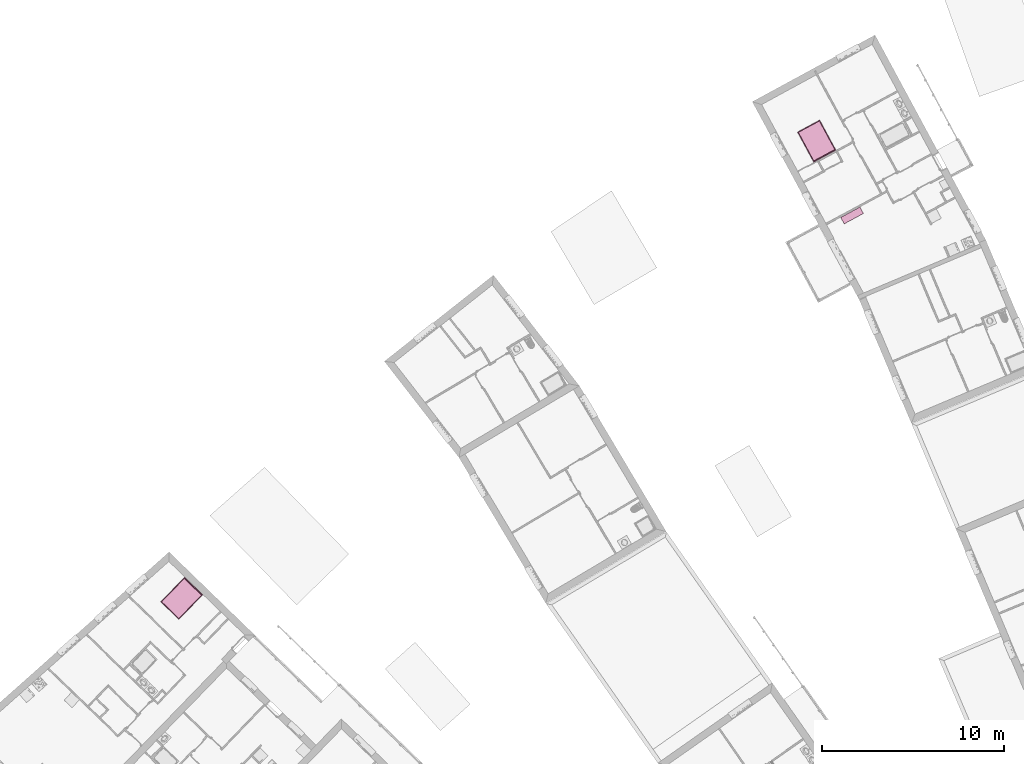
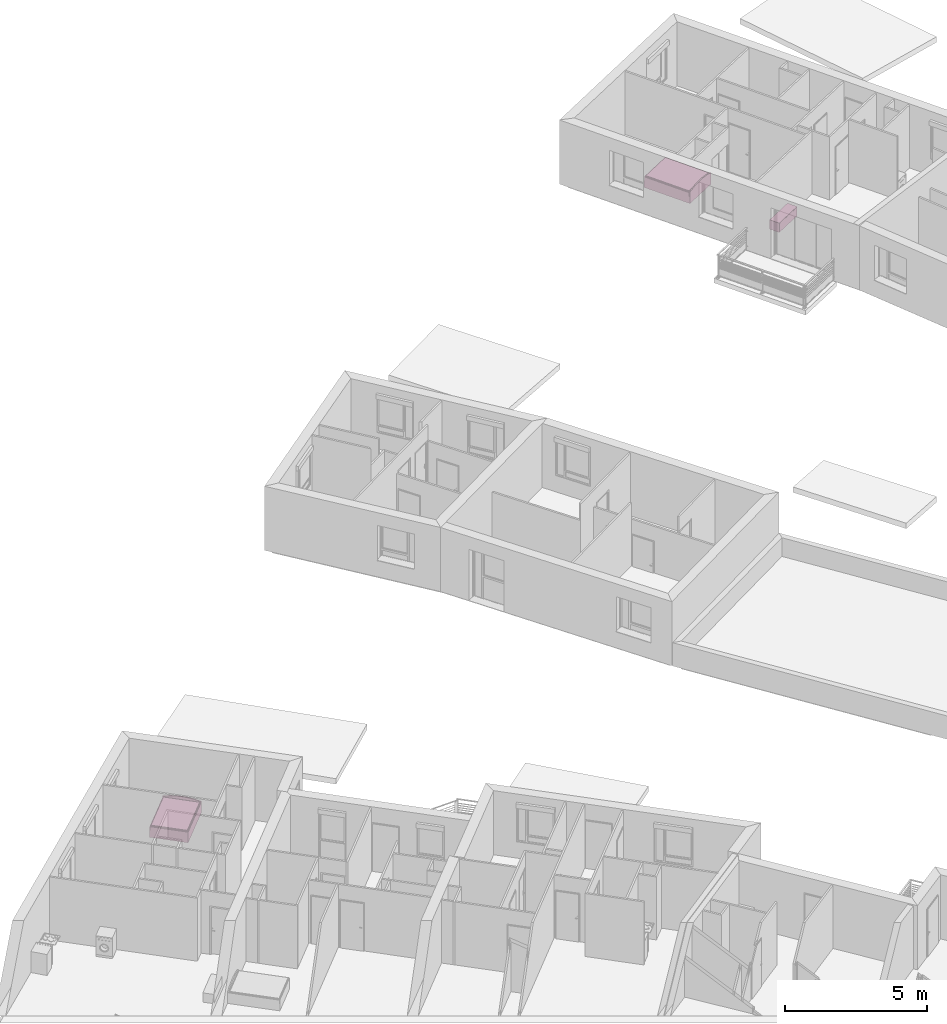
# One storey, part 104 of 121: 3 furnishings.
"""IFC2X3 building model written with IfcOpenShell, lengths in metres."""

from ifc_helpers import new_model, entity, si_unit, converted_unit, derived_unit, money_unit, direction, frame, origin_with_axes, place, context, subcontext, project, spatial, open_shell, faceted_brep, surface_model, source, transform, mapped, type_object, element, save


model = new_model("IFC2X3")

# Units and contexts
model_context = context("Model", 3, precision=1e-05, world=origin_with_axes(), true_north=direction((0.0, 1.0)))
body_context = subcontext(model_context, "Body", "Model", "MODEL_VIEW")
ifc_project = project(units=[si_unit("LENGTHUNIT", "METRE"), si_unit("AREAUNIT", "SQUARE_METRE"), si_unit("VOLUMEUNIT", "CUBIC_METRE"), converted_unit("PLANEANGLEUNIT", "DEGREE", entity("IfcPlaneAngleMeasure", 0.0174532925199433), si_unit("PLANEANGLEUNIT", "RADIAN"), dimensions=[0, 0, 0, 0, 0, 0, 0]), money_unit("CHF"), converted_unit("TIMEUNIT", "Year", entity("IfcTimeMeasure", 31557600.0), si_unit("TIMEUNIT", "SECOND"), dimensions=[0, 0, 1, 0, 0, 0, 0]), si_unit("MASSUNIT", "GRAM", prefix="KILO"), si_unit("THERMODYNAMICTEMPERATUREUNIT", "DEGREE_CELSIUS"), si_unit("LUMINOUSINTENSITYUNIT", "LUMEN"), si_unit("ENERGYUNIT", "JOULE", prefix="MEGA"), derived_unit("THERMALCONDUCTANCEUNIT", [(si_unit("POWERUNIT", "WATT"), 1), (si_unit("LENGTHUNIT", "METRE"), -1), (si_unit("THERMODYNAMICTEMPERATUREUNIT", "KELVIN"), -1)]), derived_unit("SPECIFICHEATCAPACITYUNIT", [(si_unit("ENERGYUNIT", "JOULE"), 1), (si_unit("MASSUNIT", "GRAM", prefix="KILO"), -1), (si_unit("THERMODYNAMICTEMPERATUREUNIT", "KELVIN"), -1)]), derived_unit("MASSDENSITYUNIT", [(si_unit("MASSUNIT", "GRAM", prefix="KILO"), 1), (si_unit("VOLUMEUNIT", "CUBIC_METRE"), -1)])], contexts=[model_context])

# Site, building, storey
site_placement = place(None, origin_with_axes())
site = spatial("IfcSite", under=ifc_project, at=site_placement, Name="Site", CompositionType="ELEMENT")
building_placement = place(site_placement, origin_with_axes())
building = spatial("IfcBuilding", under=site, at=building_placement, Name="Bâtiment", CompositionType="ELEMENT")
storey_placement = place(building_placement, frame((0.0, 0.0, 2.75), z_axis=(0.0, 0.0, 1.0), x_axis=(1.0, 0.0, 0.0)))
storey = spatial("IfcBuildingStorey", under=building, at=storey_placement, Name="Etage 1", CompositionType="ELEMENT", Elevation=2.75)

# Furnishings
furnishing_element_type_1 = type_object("IfcFurnishingElementType", Name="Meuble à plans 27")
shared_shape_1 = source(origin_with_axes(), body_context, "Body", "SurfaceModel", [
    surface_model("IfcShellBasedSurfaceModel", [(-1.18, 0.02, 0.0), (-1.18, 0.4, 0.0), (-0.02, 0.4, 0.0), (-0.02, 0.02, 0.0)], [open_shell([[[0, 1, 2, 3]]])]),
    faceted_brep([(0.0, 0.4, 0.0), (0.0, 0.0, 0.0), (-1.2, 0.0, 0.0), (-1.2, 0.4, 0.0), (0.0, 0.4, 0.4), (0.0, 0.0, 0.4), (-1.2, 0.0, 0.4), (-0.02, 0.0, 0.02), (-1.18, 0.0, 0.02), (-1.18, 0.0, 0.38), (-0.02, 0.0, 0.38), (-1.2, 0.4, 0.4), (-0.02, 0.4, 0.01999999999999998), (-0.02, 0.4, 0.38), (-1.18, 0.4, 0.38), (-1.18, 0.4, 0.01999999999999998)], [[[0, 1, 2, 3]], [[4, 5, 1, 0]], [[1, 5, 6, 2], [7, 8, 9, 10]], [[3, 2, 6, 11]], [[0, 3, 11, 4], [12, 13, 14, 15]], [[11, 6, 5, 4]], [[15, 8, 7, 12]], [[14, 9, 8, 15]], [[13, 10, 9, 14]], [[12, 7, 10, 13]]]),
    faceted_brep([(-1.18, 0.4, 0.01999999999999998), (-1.18, 0.4, 0.38), (-0.02, 0.4, 0.38), (-0.02, 0.4, 0.01999999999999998), (-1.18, 0.38, 0.01999999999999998), (-1.18, 0.3800000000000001, 0.38), (-0.02, 0.3800000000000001, 0.38), (-0.02, 0.38, 0.01999999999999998)], [[[0, 1, 2, 3]], [[0, 4, 5, 1]], [[1, 5, 6, 2]], [[2, 6, 7, 3]], [[3, 7, 4, 0]], [[7, 6, 5, 4]]]),
    faceted_brep([(-1.18, 0.0, 0.02), (-1.18, 0.38, 0.02), (-0.02, 0.38, 0.02), (-0.02, 0.0, 0.02), (-1.18, 0.0, 0.3750000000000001), (-1.18, 0.38, 0.3750000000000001), (-0.02, 0.38, 0.3750000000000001), (-0.02, 0.0, 0.3750000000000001)], [[[0, 1, 2, 3]], [[0, 4, 5, 1]], [[1, 5, 6, 2]], [[2, 6, 7, 3]], [[3, 7, 4, 0]], [[7, 6, 5, 4]]]),
])
furnishing_placement = place(storey_placement, frame((9560.64896007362, -1033.806633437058, 57.92018680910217), z_axis=(0.0, 0.0, 1.0), x_axis=(0.8798137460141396, 0.4753186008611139, 0.0)))
element("IfcFurnishingElement", 1, at=furnishing_placement, inside=storey, type_object=furnishing_element_type_1, Name="Obj.-376", context=body_context, shape_type="MappedRepresentation", body=[
    mapped(shared_shape_1, transform((0.0, 0.0, 0.0))),
])
furnishing_element_type_2 = type_object("IfcFurnishingElementType", Name="Lit double 01")
shared_shape_2 = source(origin_with_axes(), body_context, "Body", "Brep", [
    faceted_brep([(0.0, 1.895, 0.0), (0.0, 1.865, 0.0), (-1.4, 1.865, 0.0), (-1.4, 1.895, 0.0), (0.0, 1.895, 0.48), (0.0, 1.865, 0.48), (-0.276362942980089, 1.865, 0.5438448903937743), (-0.558179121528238, 1.865, 0.5759741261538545), (-0.8418208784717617, 1.865, 0.5759741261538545), (-1.123637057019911, 1.865, 0.5438448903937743), (-1.4, 1.865, 0.48), (-1.4, 1.865, 0.4799), (-1.4, 1.895, 0.4799), (-1.4, 1.895, 0.48), (-1.123637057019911, 1.895, 0.5438448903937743), (-0.8418208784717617, 1.895, 0.5759741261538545), (-0.558179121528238, 1.895, 0.5759741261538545), (-0.276362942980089, 1.895, 0.5438448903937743)], [[[0, 1, 2, 3]], [[4, 5, 1, 0]], [[1, 5, 6, 7, 8, 9, 10, 11, 2]], [[3, 2, 11, 12]], [[0, 3, 12, 13, 14, 15, 16, 17, 4]], [[17, 6, 5, 4]], [[16, 7, 6, 17]], [[15, 8, 7, 16]], [[14, 9, 8, 15]], [[13, 10, 9, 14]], [[12, 11, 10, 13]]]),
    faceted_brep([(-1.4, 1.9, 0.48), (-1.4, 1.86, 0.48), (-1.399999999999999, 1.86, 0.4999999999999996), (-1.399999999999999, 1.9, 0.4999999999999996), (-1.123637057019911, 1.9, 0.5438448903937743), (-1.123637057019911, 1.86, 0.5438448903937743), (-0.8418208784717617, 1.86, 0.5759741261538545), (-0.558179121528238, 1.86, 0.5759741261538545), (-0.276362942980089, 1.86, 0.5438448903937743), (0.0, 1.86, 0.48), (0.0, 1.86, 0.4999), (0.0, 1.86, 0.5), (-0.276362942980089, 1.86, 0.5638448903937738), (-0.5581791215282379, 1.86, 0.5959741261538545), (-0.8418208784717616, 1.86, 0.5959741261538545), (-1.123637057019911, 1.86, 0.5638448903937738), (-1.123637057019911, 1.9, 0.5638448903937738), (-0.8418208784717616, 1.9, 0.5959741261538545), (-0.5581791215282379, 1.9, 0.5959741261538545), (-0.276362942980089, 1.9, 0.5638448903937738), (0.0, 1.9, 0.5), (0.0, 1.9, 0.4999), (0.0, 1.9, 0.48), (-0.276362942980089, 1.9, 0.5438448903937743), (-0.558179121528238, 1.9, 0.5759741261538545), (-0.8418208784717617, 1.9, 0.5759741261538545)], [[[0, 1, 2, 3]], [[4, 5, 1, 0]], [[1, 5, 6, 7, 8, 9, 10, 11, 12, 13, 14, 15, 2]], [[3, 2, 15, 16]], [[0, 3, 16, 17, 18, 19, 20, 21, 22, 23, 24, 25, 4]], [[25, 6, 5, 4]], [[24, 7, 6, 25]], [[23, 8, 7, 24]], [[22, 9, 8, 23]], [[21, 10, 9, 22]], [[20, 11, 10, 21]], [[19, 12, 11, 20]], [[18, 13, 12, 19]], [[17, 14, 13, 18]], [[16, 15, 14, 17]]]),
    faceted_brep([(-1.4, 0.0, 0.0), (-1.4, 1.865, 0.0), (0.0, 1.865, 0.0), (0.0, 0.0, 0.0), (-1.4, 0.0, 0.3), (-1.4, 1.865, 0.3), (0.0, 1.865, 0.3), (0.0, 0.0, 0.3)], [[[0, 1, 2, 3]], [[0, 4, 5, 1]], [[1, 5, 6, 2]], [[2, 6, 7, 3]], [[3, 7, 4, 0]], [[7, 6, 5, 4]]]),
    faceted_brep([(0.0, 0.02, 0.43), (-0.002679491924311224, 0.01, 0.43), (-0.009999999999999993, 0.002679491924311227, 0.43), (-0.01999999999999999, 0.0, 0.43), (-1.38, 0.0, 0.43), (-1.39, 0.002679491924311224, 0.43), (-1.397320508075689, 0.009999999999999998, 0.43), (-1.4, 0.02, 0.43), (-1.4, 1.845, 0.43), (-1.397320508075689, 1.855, 0.43), (-1.39, 1.862320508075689, 0.43), (-1.38, 1.865, 0.43), (-0.02, 1.865, 0.43), (-0.009999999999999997, 1.862320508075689, 0.43), (-0.002679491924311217, 1.855, 0.43), (0.0, 1.845, 0.43), (3.895163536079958e-10, 0.02000000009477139, 0.44), (-0.002679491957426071, 0.0100000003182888, 0.44), (-0.0100000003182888, 0.002679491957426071, 0.44), (-0.02000000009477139, -3.895163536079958e-10, 0.44), (-1.380000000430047, -3.895163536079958e-10, 0.44), (-1.39000000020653, 0.002679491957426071, 0.44), (-1.39732050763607, 0.0100000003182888, 0.44), (-1.399999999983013, 0.02000000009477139, 0.44), (-1.399999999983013, 1.845000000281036, 0.44), (-1.39732050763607, 1.855000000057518, 0.44), (-1.39000000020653, 1.862320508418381, 0.44), (-1.380000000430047, 1.864999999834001, 0.44), (-0.02000000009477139, 1.864999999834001, 0.44), (-0.0100000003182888, 1.862320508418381, 0.44), (-0.002679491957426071, 1.855000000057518, 0.44), (3.895163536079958e-10, 1.845000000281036, 0.44), (-0.002044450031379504, 0.02026915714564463, 0.4555291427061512), (-0.004512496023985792, 0.01105828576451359, 0.4555291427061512), (-0.01105828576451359, 0.004512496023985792, 0.4555291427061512), (-0.02026915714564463, 0.002044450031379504, 0.4555291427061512), (-1.379730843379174, 0.002044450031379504, 0.4555291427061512), (-1.388941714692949, 0.004512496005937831, 0.4555291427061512), (-1.395487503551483, 0.01105828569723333, 0.4555291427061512), (-1.397955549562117, 0.02026915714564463, 0.4555291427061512), (-1.397955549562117, 1.844730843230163, 0.4555291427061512), (-1.395487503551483, 1.853941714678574, 0.4555291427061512), (-1.388941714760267, 1.860487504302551, 0.4555291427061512), (-1.379730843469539, 1.862955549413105, 0.4555291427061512), (-0.02026915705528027, 1.862955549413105, 0.4555291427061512), (-0.01105828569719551, 1.860487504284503, 0.4555291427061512), (-0.004512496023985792, 1.853941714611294, 0.4555291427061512), (-0.002044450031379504, 1.844730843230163, 0.4555291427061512), (-0.01757359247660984, 0.02231360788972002, 0.4824264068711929), (-0.01843554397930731, 0.01909676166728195, 0.4824264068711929), (-0.01909676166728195, 0.01843554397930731, 0.4824264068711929), (-0.02231360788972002, 0.01757359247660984, 0.4824264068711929), (-1.377686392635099, 0.01757359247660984, 0.4824264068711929), (-1.380903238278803, 0.01843554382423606, 0.4824264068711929), (-1.381564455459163, 0.01909676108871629, 0.4824264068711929), (-1.382426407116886, 0.02231360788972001, 0.4824264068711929), (-1.382426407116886, 1.842686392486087, 0.4824264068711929), (-1.381564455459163, 1.845903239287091, 0.4824264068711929), (-1.380903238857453, 1.846564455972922, 0.4824264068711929), (-1.377686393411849, 1.847426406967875, 0.4824264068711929), (-0.02231360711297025, 1.847426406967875, 0.4824264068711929), (-0.01909676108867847, 1.846564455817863, 0.4824264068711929), (-0.01843554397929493, 1.845903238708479, 0.4824264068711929), (-0.01757359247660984, 1.842686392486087, 0.4824264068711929), (-0.02303225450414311, 0.02303225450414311, 0.4855779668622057), (-0.02000000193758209, 0.02000000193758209, 0.4834338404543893), (-0.04447085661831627, 0.04447085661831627, 0.4979555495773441), (-1.35552914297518, 0.04447085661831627, 0.4979555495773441), (-1.376967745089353, 0.02303225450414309, 0.4855779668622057), (-1.379999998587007, 0.02000000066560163, 0.4834338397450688), (-1.35552914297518, 1.820529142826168, 0.4979555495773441), (-1.376967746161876, 1.841967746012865, 0.4855779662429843), (-1.380000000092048, 1.845000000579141, 0.4834338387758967), (-0.04447085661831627, 1.820529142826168, 0.4979555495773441), (-0.02303225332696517, 1.841967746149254, 0.48557796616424), (-0.02000000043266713, 1.844999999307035, 0.4834338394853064), (-0.05999999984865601, 0.05999999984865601, 0.5000000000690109), (-1.33999999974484, 0.05999999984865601, 0.5000000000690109), (-1.33999999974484, 1.804999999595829, 0.5000000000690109), (-0.05999999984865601, 1.804999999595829, 0.5000000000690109)], [[[0, 1, 2, 3, 4, 5, 6, 7, 8, 9, 10, 11, 12, 13, 14, 15]], [[0, 16, 17, 1]], [[1, 17, 18, 2]], [[2, 18, 19, 3]], [[3, 19, 20, 4]], [[4, 20, 21, 5]], [[5, 21, 22, 6]], [[6, 22, 23, 7]], [[7, 23, 24, 8]], [[8, 24, 25, 9]], [[9, 25, 26, 10]], [[10, 26, 27, 11]], [[11, 27, 28, 12]], [[12, 28, 29, 13]], [[13, 29, 30, 14]], [[14, 30, 31, 15]], [[15, 31, 16, 0]], [[16, 32, 33, 17]], [[17, 33, 34, 18]], [[18, 34, 35, 19]], [[19, 35, 36, 20]], [[20, 36, 37, 21]], [[21, 37, 38, 22]], [[22, 38, 39, 23]], [[23, 39, 40, 24]], [[24, 40, 41, 25]], [[25, 41, 42, 26]], [[26, 42, 43, 27]], [[27, 43, 44, 28]], [[28, 44, 45, 29]], [[29, 45, 46, 30]], [[30, 46, 47, 31]], [[31, 47, 32, 16]], [[32, 48, 49, 33]], [[33, 49, 50, 34]], [[34, 50, 51, 35]], [[35, 51, 52, 36]], [[36, 52, 53, 37]], [[37, 53, 54, 38]], [[38, 54, 55, 39]], [[39, 55, 56, 40]], [[40, 56, 57, 41]], [[41, 57, 58, 42]], [[42, 58, 59, 43]], [[43, 59, 60, 44]], [[44, 60, 61, 45]], [[45, 61, 62, 46]], [[46, 62, 63, 47]], [[47, 63, 48, 32]], [[48, 64, 65, 49]], [[49, 65, 50]], [[50, 65, 64, 51]], [[51, 64, 66, 67, 68, 52]], [[52, 68, 69, 53]], [[53, 69, 54]], [[54, 69, 68, 55]], [[55, 68, 67, 70, 71, 56]], [[56, 71, 72, 57]], [[57, 72, 58]], [[58, 72, 71, 59]], [[59, 71, 70, 73, 74, 60]], [[60, 74, 75, 61]], [[61, 75, 62]], [[62, 75, 74, 63]], [[63, 74, 73, 66, 64, 48]], [[66, 76, 77, 67]], [[67, 77, 78, 70]], [[70, 78, 79, 73]], [[73, 79, 76, 66]], [[78, 77, 76, 79]]]),
    faceted_brep([(-1.39000000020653, 0.002679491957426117, 0.2999999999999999), (-1.39, 0.002679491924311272, 0.3099999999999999), (-1.397320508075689, 0.01000000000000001, 0.3099999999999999), (-1.39732050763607, 0.01000000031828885, 0.2999999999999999), (-1.380000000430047, -3.895163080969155e-10, 0.2999999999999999), (-1.38, 0.0, 0.3099999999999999), (-1.4, 0.02000000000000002, 0.3099999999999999), (-0.02000000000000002, 0.0, 0.3099999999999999), (-0.01000000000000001, 0.002679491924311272, 0.3099999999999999), (-0.002679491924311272, 0.01000000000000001, 0.3099999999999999), (0.0, 0.02000000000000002, 0.3099999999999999), (0.0, 1.845, 0.3099999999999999), (-0.002679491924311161, 1.855, 0.3099999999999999), (-0.01000000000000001, 1.862320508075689, 0.3099999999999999), (-0.02000000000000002, 1.865, 0.3099999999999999), (-1.38, 1.865, 0.3099999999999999), (-1.39, 1.862320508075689, 0.3099999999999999), (-1.397320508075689, 1.855, 0.3099999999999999), (-1.4, 1.845, 0.3099999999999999), (-1.399999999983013, 0.02000000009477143, 0.2999999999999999), (-1.399999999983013, 1.845000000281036, 0.2999999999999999), (-1.39732050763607, 1.855000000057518, 0.2999999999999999), (-1.39000000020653, 1.862320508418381, 0.2999999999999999), (-1.380000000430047, 1.864999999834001, 0.2999999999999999), (-0.02000000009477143, 1.864999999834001, 0.2999999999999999), (-0.01000000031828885, 1.862320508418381, 0.2999999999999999), (-0.002679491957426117, 1.855000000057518, 0.2999999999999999), (3.895163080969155e-10, 1.845000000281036, 0.2999999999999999), (3.895163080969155e-10, 0.02000000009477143, 0.2999999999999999), (-0.002679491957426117, 0.01000000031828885, 0.2999999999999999), (-0.01000000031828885, 0.002679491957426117, 0.2999999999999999), (-0.02000000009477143, -3.895163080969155e-10, 0.2999999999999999)], [[[0, 1, 2, 3]], [[1, 0, 4, 5]], [[6, 2, 1, 5, 7, 8, 9, 10, 11, 12, 13, 14, 15, 16, 17, 18]], [[3, 2, 6, 19]], [[3, 19, 20, 21, 22, 23, 24, 25, 26, 27, 28, 29, 30, 31, 4, 0]], [[7, 5, 4, 31]], [[30, 8, 7, 31]], [[8, 30, 29, 9]], [[9, 29, 28, 10]], [[10, 28, 27, 11]], [[26, 12, 11, 27]], [[12, 26, 25, 13]], [[25, 24, 14, 13]], [[24, 23, 15, 14]], [[22, 16, 15, 23]], [[21, 17, 16, 22]], [[17, 21, 20, 18]], [[19, 6, 18, 20]]]),
    faceted_brep([(0.0, 0.02, 0.3099999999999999), (0.0, 0.02, 0.4299999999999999), (-0.002679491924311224, 0.01, 0.4299999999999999), (-0.002679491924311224, 0.01, 0.3099999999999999), (0.0, 1.845, 0.3099999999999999), (0.0, 1.845, 0.4299999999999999), (-0.002679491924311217, 1.855, 0.4299999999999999), (-0.009999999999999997, 1.862320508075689, 0.4299999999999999), (-0.02, 1.865, 0.4299999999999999), (-1.38, 1.865, 0.4299999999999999), (-1.39, 1.862320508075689, 0.4299999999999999), (-1.397320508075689, 1.855, 0.4299999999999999), (-1.4, 1.845, 0.4299999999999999), (-1.4, 0.02, 0.4299999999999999), (-1.397320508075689, 0.009999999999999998, 0.4299999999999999), (-1.39, 0.002679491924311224, 0.4299999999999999), (-1.38, 0.0, 0.4299999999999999), (-0.01999999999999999, 0.0, 0.4299999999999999), (-0.009999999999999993, 0.002679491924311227, 0.4299999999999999), (-0.009999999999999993, 0.002679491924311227, 0.3099999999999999), (-0.01999999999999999, 0.0, 0.3099999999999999), (-1.38, 0.0, 0.3099999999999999), (-1.39, 0.002679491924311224, 0.3099999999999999), (-1.397320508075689, 0.009999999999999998, 0.3099999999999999), (-1.4, 0.02, 0.3099999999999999), (-1.4, 1.845, 0.3099999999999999), (-1.397320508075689, 1.855, 0.3099999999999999), (-1.39, 1.862320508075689, 0.3099999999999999), (-1.38, 1.865, 0.3099999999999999), (-0.02, 1.865, 0.3099999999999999), (-0.009999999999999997, 1.862320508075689, 0.3099999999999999), (-0.002679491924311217, 1.855, 0.3099999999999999)], [[[0, 1, 2, 3]], [[4, 5, 1, 0]], [[1, 5, 6, 7, 8, 9, 10, 11, 12, 13, 14, 15, 16, 17, 18, 2]], [[3, 2, 18, 19]], [[0, 3, 19, 20, 21, 22, 23, 24, 25, 26, 27, 28, 29, 30, 31, 4]], [[31, 6, 5, 4]], [[30, 7, 6, 31]], [[29, 8, 7, 30]], [[28, 9, 8, 29]], [[27, 10, 9, 28]], [[26, 11, 10, 27]], [[25, 12, 11, 26]], [[24, 13, 12, 25]], [[23, 14, 13, 24]], [[22, 15, 14, 23]], [[21, 16, 15, 22]], [[20, 17, 16, 21]], [[19, 18, 17, 20]]]),
])
for number, where, z_axis, x_axis, name in (
    (2, (9523.067603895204, -1056.09958024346, 57.7), (0.0, 0.0, 1.0), (0.7179694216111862, -0.696074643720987, 0.0), "Obj.-002"),
    (3, (9557.018131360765, -1029.335540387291, 57.7), (0.0, 0.0, 1.0), (-0.8798137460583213, -0.4753186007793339, 0.0), "Obj.-002"),
):
    element("IfcFurnishingElement", number, at=place(storey_placement, frame(where, z_axis=z_axis, x_axis=x_axis)), inside=storey, type_object=furnishing_element_type_2, Name=name, context=body_context, shape_type="MappedRepresentation", body=[
        mapped(shared_shape_2, transform((0.0, 0.0, 0.0))),
    ])

save(model, "model.ifc")
